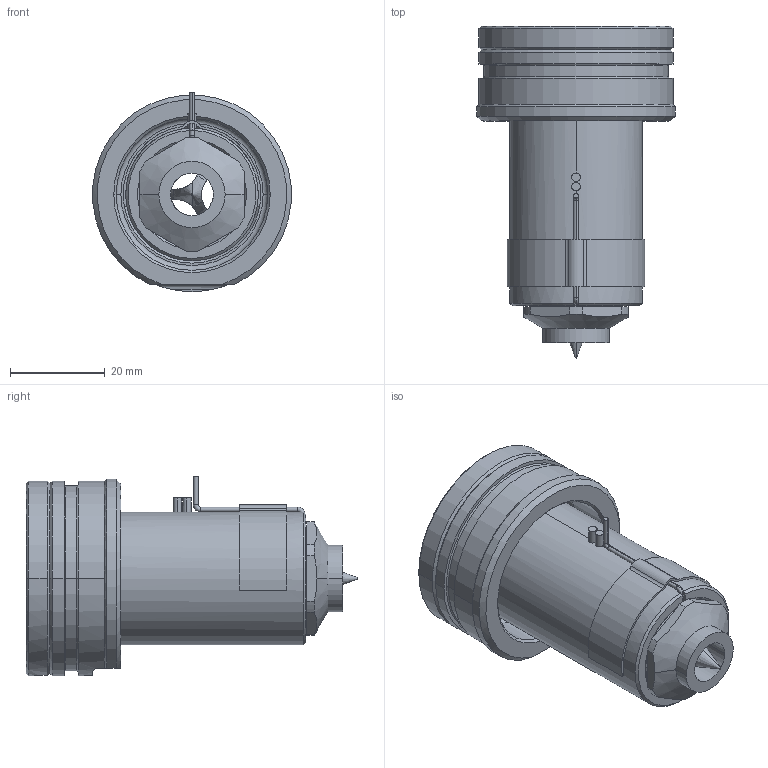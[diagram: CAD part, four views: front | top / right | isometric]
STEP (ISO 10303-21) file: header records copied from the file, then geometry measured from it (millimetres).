
FILE_DESCRIPTION((''),'2;1');
FILE_NAME('EO10_PG-BL_WR_050_SW','2024-02-19T11:09:27',('sundharh'),(''),'CREO PARAMETRIC BY PTC INC, 2023154','CREO PARAMETRIC BY PTC INC, 2023154','');
FILE_SCHEMA(('CONFIG_CONTROL_DESIGN'));
Length unit declared in the file: millimetre
Products named in the file (1): EO10_PG-BL_WR_050_SW
Bounding box: 41.85 x 70 x 42.02 mm (x, y, z)
Volume: 45711.9 mm3; surface area: 15102.4 mm2
Topology: 1 solids, 1 shells, 196 faces, 532 edges, 332 vertices
Faces by surface type: cylinder 78, plane 59, cone 37, torus 17, bspline 3, sphere 2
Entity records: 7195 total; most frequent: CARTESIAN_POINT 2136, DIRECTION 1102, ORIENTED_EDGE 1060, EDGE_CURVE 530, AXIS2_PLACEMENT_3D 459, VERTEX_POINT 332, CIRCLE 266, EDGE_LOOP 212
